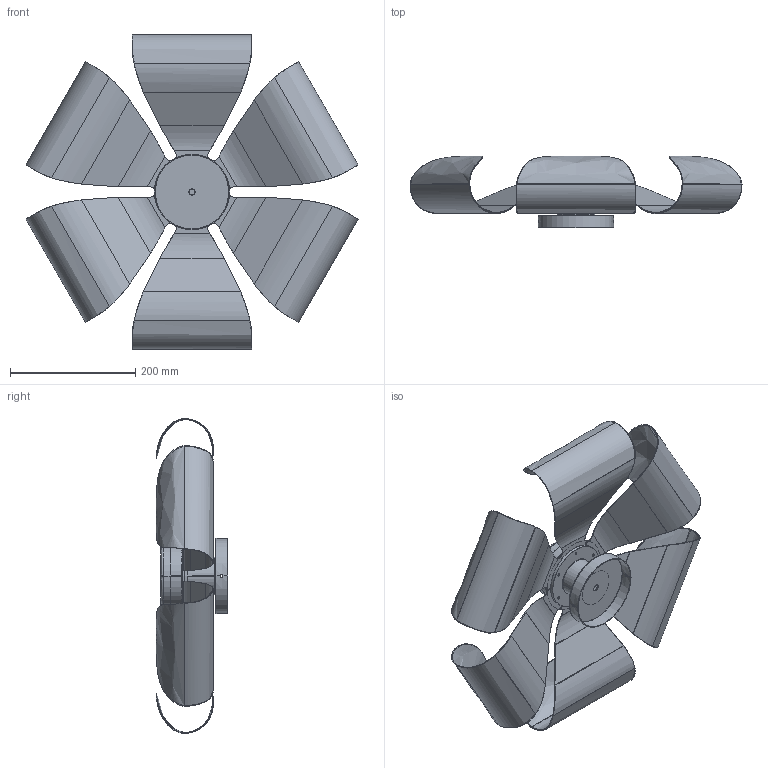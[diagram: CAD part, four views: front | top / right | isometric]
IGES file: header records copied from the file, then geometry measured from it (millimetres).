
Start section: SolidWorks IGES file using analytic representation for surfaces
Global section: file name: C:\Users\Agustin\Desktop\ARNOLD\SEPT 2025\2D-3D DEFINITIVO ONEDRIVE\2D-3D RITA_A1348\RITA_A1348_LED.IGS; native system: SolidWorks 2018; preprocessor: SolidWorks 2018; author: Agustin; date: 250904.173010; units: millimetre
Bounding box: 529.68 x 114.4 x 501.92 mm (x, y, z)
Surface area: 714684.8 mm2 (no closed solid volume)
Topology: 0 solids, 0 shells, 358 faces, 5680 edges, 5680 vertices
Faces by surface type: bspline 253, revolution 105
